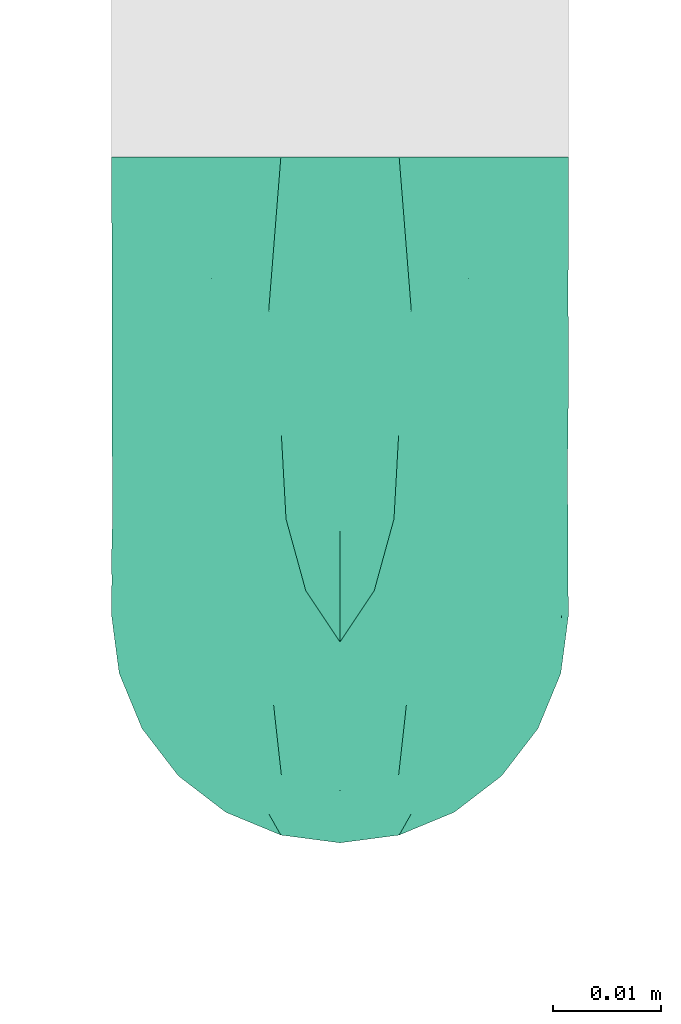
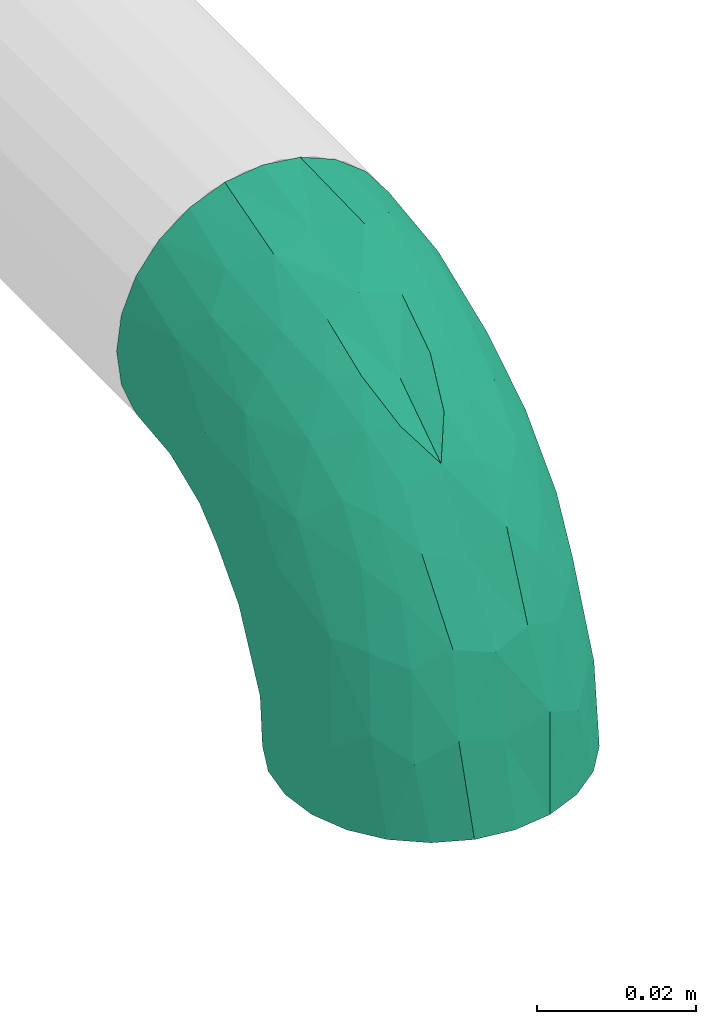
# One storey, part 31 of 32: 1 flow fitting.
"""IFC2X3 building model written with IfcOpenShell, lengths in millimetres."""

import ifcopenshell
import ifcopenshell.guid

model = None  # the IFC model being written
_history = None  # IfcOwnerHistory: only IFC2X3 demands one
_inside = {}  # id of a spatial element -> (the spatial element, [elements in it])
_under = {}  # id of a project, library or spatial element -> (it, [spatial elements below it])
_declared = {}  # id of a project -> (the project, [libraries it declares])
_typed = {}  # id of a type object -> (the type object, [elements of that type])
_made_of = {}  # id of a material, layer set ... -> (it, [elements and type objects made of it])


def new_model(schema):
    """Start an empty IFC model of exactly this schema.

    Asked for "IFC4X3", IfcOpenShell would pick the latest addendum, in which some entities
    have other attributes; the version numbers below select the first issue.
    IFC2X3 requires an IfcOwnerHistory on every rooted entity: one is made here for all.
    """
    global model, _history
    if schema == "IFC4X3":
        model = ifcopenshell.file(schema_version=(4, 3, 0, 0))
    else:
        model = ifcopenshell.file(schema=schema)
    _inside.clear()
    _under.clear()
    _declared.clear()
    _typed.clear()
    _made_of.clear()
    _history = None
    if model.schema == "IFC2X3":
        org = make("IfcOrganization", Name="unknown")
        user = make(
            "IfcPersonAndOrganization",
            ThePerson=make("IfcPerson", FamilyName="unknown"),
            TheOrganization=org,
        )
        app = make(
            "IfcApplication",
            ApplicationDeveloper=org,
            Version="unknown",
            ApplicationFullName="unknown",
            ApplicationIdentifier="unknown",
        )
        _history = make(
            "IfcOwnerHistory",
            OwningUser=user,
            OwningApplication=app,
            ChangeAction="ADDED",
            CreationDate=0,
        )
    return model


def make(cls, **values):
    """One entity of the class cls with the attributes given. An attribute that is None is left unset."""
    return model.create_entity(
        cls, **{name: value for name, value in values.items() if value is not None}
    )


def entity(cls, *values):
    """Any entity or typed value of the class cls, its attributes in the order of the schema. None: left unset."""
    e = model.create_entity(cls)
    for i, value in enumerate(values):
        if value is not None:
            e[i] = value
    return e


def rooted(cls, **values):
    """An entity with a GlobalId (a new one), such as an element, a storey or a relation."""
    return make(cls, GlobalId=ifcopenshell.guid.new(), OwnerHistory=_history, **values)


def si_unit(unit_type, name, prefix=None):
    """IfcSIUnit, for example si_unit("LENGTHUNIT", "METRE", prefix="MILLI")."""
    return make("IfcSIUnit", UnitType=unit_type, Prefix=prefix, Name=name)


def converted_unit(unit_type, name, factor, base, dimensions=None, offset=None):
    """IfcConversionBasedUnit, such as the inch: factor (a typed value) times the base unit."""
    return make(
        "IfcConversionBasedUnit"
        if offset is None
        else "IfcConversionBasedUnitWithOffset",
        ConversionOffset=offset,
        Dimensions=None
        if dimensions is None
        else entity("IfcDimensionalExponents", *dimensions),
        UnitType=unit_type,
        Name=name,
        ConversionFactor=make(
            "IfcMeasureWithUnit", ValueComponent=factor, UnitComponent=base
        ),
    )


def derived_unit(unit_type, elements):
    """IfcDerivedUnit: a product of units, each with its exponent."""
    return make(
        "IfcDerivedUnit",
        Elements=[
            make("IfcDerivedUnitElement", Unit=unit, Exponent=power)
            for unit, power in elements
        ],
        UnitType=unit_type,
    )


def assignment(units):
    """IfcUnitAssignment: the units of a project."""
    return None if units is None else make("IfcUnitAssignment", Units=units)


def point(xyz):
    """IfcCartesianPoint."""
    return None if xyz is None else make("IfcCartesianPoint", Coordinates=xyz)


def direction(xyz):
    """IfcDirection."""
    return None if xyz is None else make("IfcDirection", DirectionRatios=xyz)


def frame(location, z_axis=None, x_axis=None):
    """IfcAxis2Placement3D, a coordinate frame: its origin and axes. An axis left out is left unset."""
    return make(
        "IfcAxis2Placement3D",
        Location=point(location),
        Axis=direction(z_axis),
        RefDirection=direction(x_axis),
    )


def origin_with_axes():
    """The frame at (0, 0, 0) with the z axis (0, 0, 1) and the x axis (1, 0, 0) written out."""
    return frame((0.0, 0.0, 0.0), z_axis=(0.0, 0.0, 1.0), x_axis=(1.0, 0.0, 0.0))


def place(relative_to, where):
    """IfcLocalPlacement: puts the frame where relative to a parent placement (None: the world)."""
    return make(
        "IfcLocalPlacement", PlacementRelTo=relative_to, RelativePlacement=where
    )


def context(
    kind, dimensions, precision=None, world=None, true_north=None, identifier=None
):
    """IfcGeometricRepresentationContext, for example the 3D "Model" context."""
    return make(
        "IfcGeometricRepresentationContext",
        ContextIdentifier=identifier,
        ContextType=kind,
        CoordinateSpaceDimension=dimensions,
        Precision=precision,
        WorldCoordinateSystem=world,
        TrueNorth=true_north,
    )


def subcontext(parent, identifier, kind, view, scale=None):
    """IfcGeometricRepresentationSubContext, for example "Body" below "Model"."""
    return make(
        "IfcGeometricRepresentationSubContext",
        ContextIdentifier=identifier,
        ContextType=kind,
        ParentContext=parent,
        TargetScale=scale,
        TargetView=view,
    )


def project(units=None, contexts=None):
    """IfcProject with its units and contexts."""
    return rooted(
        "IfcProject",
        Name="project",
        RepresentationContexts=contexts,
        UnitsInContext=assignment(units),
    )


def spatial(cls, under=None, at=None, **own):
    """A site, building, storey or space (cls), placed at a placement, below another one or the project."""
    s = rooted(cls, ObjectPlacement=at, **own)
    if under is not None:
        _under.setdefault(under.id(), (under, []))[1].append(s)
    return s


def faces_of(points, faces, orient=None, outer=None):
    """IfcFace entities. A face is a list of loops; a loop is a list of indices into points, from 0.

    orient and outer hold one flag for each loop. By default every Orientation is true, the
    first loop of a face is its IfcFaceOuterBound and the others are IfcFaceBound.
    """
    made = []
    for i, loops in enumerate(faces):
        bounds = []
        for j, loop in enumerate(loops):
            is_outer = j == 0 if outer is None else outer[i][j]
            bounds.append(
                make(
                    "IfcFaceOuterBound" if is_outer else "IfcFaceBound",
                    Bound=make("IfcPolyLoop", Polygon=[points[k] for k in loop]),
                    Orientation=True if orient is None else orient[i][j],
                )
            )
        made.append(make("IfcFace", Bounds=bounds))
    return made


def open_shell(faces, orient=None, outer=None):
    """The faces of one IfcOpenShell. surface_model builds it on its shared points."""
    return ("IfcOpenShell", faces, orient, outer)


def surface_model(cls, points, shells):
    """IfcFaceBasedSurfaceModel or IfcShellBasedSurfaceModel (cls): surfaces that need not close."""
    shared = [point(p) for p in points]
    made = [make(c, CfsFaces=faces_of(shared, fs, o, b)) for c, fs, o, b in shells]
    if cls == "IfcFaceBasedSurfaceModel":
        return make(cls, FbsmFaces=made)
    return make(cls, SbsmBoundary=made)


def shape(context_of_items, identifier, shape_type, items):
    """IfcShapeRepresentation: the items that make up one representation, for example the "Body"."""
    return make(
        "IfcShapeRepresentation",
        ContextOfItems=context_of_items,
        RepresentationIdentifier=identifier,
        RepresentationType=shape_type,
        Items=items,
    )


def source(mapping_origin, context_of_items, identifier, shape_type, items):
    """IfcRepresentationMap: a shape defined once, which mapped items show again and again."""
    return make(
        "IfcRepresentationMap",
        MappingOrigin=mapping_origin,
        MappedRepresentation=shape(context_of_items, identifier, shape_type, items),
    )


def transform(
    local_origin,
    x_axis=None,
    y_axis=None,
    z_axis=None,
    scale=None,
    scale2=None,
    scale3=None,
    uniform=True,
):
    """IfcCartesianTransformationOperator3D, or its non-uniform kind. x_axis, y_axis, z_axis: its Axis1, 2, 3."""
    if uniform:
        return make(
            "IfcCartesianTransformationOperator3D",
            Axis1=direction(x_axis),
            Axis2=direction(y_axis),
            LocalOrigin=point(local_origin),
            Scale=scale,
            Axis3=direction(z_axis),
        )
    return make(
        "IfcCartesianTransformationOperator3DnonUniform",
        Axis1=direction(x_axis),
        Axis2=direction(y_axis),
        LocalOrigin=point(local_origin),
        Scale=scale,
        Axis3=direction(z_axis),
        Scale2=scale2,
        Scale3=scale3,
    )


def mapped(mapping_source, mapping_target):
    """IfcMappedItem: shows the shape of a source again, moved by a transform."""
    return make(
        "IfcMappedItem", MappingSource=mapping_source, MappingTarget=mapping_target
    )


def made_of(thing, what):
    """Note that an element or type object is made of a material, layer set ...; save() writes the relation."""
    if what is not None:
        _made_of.setdefault(what.id(), (what, []))[1].append(thing)
    return thing


def type_object(cls, material=None, **own):
    """A type object (cls), such as IfcWallType, which elements share."""
    return made_of(rooted(cls, **own), material)


def element(
    cls,
    number,
    at=None,
    inside=None,
    cuts=None,
    type_object=None,
    material=None,
    context=None,
    identifier="Body",
    shape_type=None,
    held_by="IfcProductDefinitionShape",
    body=None,
    shapes=None,
    **own,
):
    """One element of the class cls, such as IfcWall. Its Tag is "e" and its number.

    at: its placement. inside: the storey or other place that contains it. cuts: it is an
    opening in that element (IfcRelVoidsElement). A single representation is given by context,
    identifier, shape_type and body (its items); several are given by shapes. held_by: the class
    of the entity that holds the representations. save() writes the other relations.
    """
    e = rooted(cls, Tag="e%d" % number, ObjectPlacement=at, **own)
    if body is not None:
        shapes = [shape(context, identifier, shape_type, body)]
    if shapes is not None:
        e.Representation = make(held_by, Representations=shapes)
    if inside is not None:
        _inside.setdefault(inside.id(), (inside, []))[1].append(e)
    if cuts is not None:
        rooted(
            "IfcRelVoidsElement", RelatingBuildingElement=cuts, RelatedOpeningElement=e
        )
    if type_object is not None:
        _typed.setdefault(type_object.id(), (type_object, []))[1].append(e)
    return made_of(e, material)


def aggregate(whole, parts):
    """IfcRelAggregates: a whole, such as a stair, and the parts it consists of."""
    return rooted("IfcRelAggregates", RelatingObject=whole, RelatedObjects=parts)


def save(model, path):
    """Write the relations noted so far, then the file.

    IfcRelAggregates (storeys below a building ...), IfcRelContainedInSpatialStructure (elements
    in a storey), IfcRelDefinesByType, IfcRelAssociatesMaterial and IfcRelDeclares: one each for
    every whole, place, type object, material and project.
    """
    for whole, parts in _under.values():
        aggregate(whole, parts)
    for where, things in _inside.values():
        rooted(
            "IfcRelContainedInSpatialStructure",
            RelatedElements=things,
            RelatingStructure=where,
        )
    for kind, things in _typed.values():
        rooted("IfcRelDefinesByType", RelatedObjects=things, RelatingType=kind)
    for what, things in _made_of.values():
        rooted("IfcRelAssociatesMaterial", RelatedObjects=things, RelatingMaterial=what)
    for by, libraries in _declared.values():
        rooted("IfcRelDeclares", RelatingContext=by, RelatedDefinitions=libraries)
    model.write(path)


model = new_model("IFC2X3")

# Units and contexts
model_context = context("Model", 3, precision=0.01, world=frame((0.0, 4.29681676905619e-09, 0.0)), true_north=direction((4.01073788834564e-13, 1.0)))
plan_context = context("Plan", 3, precision=0.01, world=frame((0.0, 4.29681676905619e-09, 0.0)), true_north=direction((4.01073788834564e-13, 1.0)))
body_context = subcontext(model_context, "Body", "Model", "MODEL_VIEW")
ifc_project = project(units=[converted_unit("PLANEANGLEUNIT", "DEGREE", entity("IfcPositiveLengthMeasure", 0.0174532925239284), si_unit("PLANEANGLEUNIT", "RADIAN"), dimensions=[0, 0, 0, 0, 0, 0, 0]), si_unit("AREAUNIT", "SQUARE_METRE"), si_unit("LENGTHUNIT", "METRE", prefix="MILLI"), si_unit("MASSUNIT", "GRAM", prefix="KILO"), si_unit("POWERUNIT", "WATT"), si_unit("PRESSUREUNIT", "PASCAL", prefix="KILO"), si_unit("FORCEUNIT", "NEWTON", prefix="KILO"), si_unit("ELECTRICVOLTAGEUNIT", "VOLT"), si_unit("ELECTRICCURRENTUNIT", "AMPERE"), si_unit("THERMODYNAMICTEMPERATUREUNIT", "DEGREE_CELSIUS"), si_unit("TIMEUNIT", "SECOND"), si_unit("VOLUMEUNIT", "CUBIC_METRE"), derived_unit("LINEARVELOCITYUNIT", [(si_unit("LENGTHUNIT", "METRE"), 1), (si_unit("TIMEUNIT", "SECOND"), -1)]), derived_unit("VOLUMETRICFLOWRATEUNIT", [(si_unit("VOLUMEUNIT", "CUBIC_METRE"), 1), (si_unit("TIMEUNIT", "SECOND"), -1)]), derived_unit("THERMALTRANSMITTANCEUNIT", [(si_unit("POWERUNIT", "WATT"), 1), (si_unit("THERMODYNAMICTEMPERATUREUNIT", "KELVIN"), -1), (si_unit("AREAUNIT", "SQUARE_METRE"), -1)]), derived_unit("SOUNDPRESSUREUNIT", [(si_unit("PRESSUREUNIT", "PASCAL"), 1)])], contexts=[model_context, plan_context])

# Site, building, storey
site_placement = place(None, frame((0.0, -4.29681676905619e-09, 0.0), z_axis=(0.0, 0.0, 1.0), x_axis=(1.0, 0.0, 0.0)))
site = spatial("IfcSite", under=ifc_project, at=site_placement, CompositionType="ELEMENT")
building_placement = place(site_placement, frame((0.0, 4.29681676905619e-09, 0.0), z_axis=(0.0, 0.0, 1.0), x_axis=(1.0, 0.0, 0.0)))
building = spatial("IfcBuilding", under=site, at=building_placement, Name="mc-building", CompositionType="ELEMENT")
storey_placement = place(building_placement, frame((0.0, 0.0, 205200.0), z_axis=(0.0, 0.0, 1.0), x_axis=(1.0, 0.0, 0.0)))
storey = spatial("IfcBuildingStorey", under=building, at=storey_placement, Name="Nivå D + 1,2 m", CompositionType="ELEMENT", Elevation=205200.0)

# Flow fitting
pipe_fitting_type = type_object("IfcPipeFittingType", Name="magi_pipe_fe_elbow_short_001", PredefinedType="BEND")
shared_shape = source(origin_with_axes(), body_context, "Body", "SurfaceModel", [
    surface_model("IfcShellBasedSurfaceModel", [(-42.4, 10.6, -18.35974), (-42.4, 5.48696, -20.47763), (-42.4, 0.0, -21.2), (-42.4, 14.99066, -14.99066), (-42.4, 20.47763, -5.48696), (-42.4, 18.35974, -10.6), (-42.4, -14.99066, 14.99066), (-42.4, -21.2, 0.0), (-42.4, -10.6, -18.35974), (-42.4, -14.99066, -14.99066), (-42.4, -5.48696, -20.47763), (-42.4, -18.35974, -10.6), (-42.4, -20.47763, -5.48696), (-42.4, 10.6, 18.35974), (-42.4, 20.47763, 5.48696), (-42.4, 18.35974, 10.6), (-42.4, 14.99066, 14.99066), (-42.4, 5.48696, 20.47763), (-42.4, 0.0, 21.2), (-42.4, -20.47763, 5.48696), (-42.4, -18.35974, 10.6), (-42.4, -10.6, 18.35974), (-42.4, -5.48696, 20.47763), (-42.4, 21.2, 0.0), (0.0, 42.4, -21.2), (-5.48696, 42.4, -20.47763), (-10.6, 42.4, -18.35974), (-14.99066, 42.4, -14.99066), (-18.35974, 42.4, -10.6), (-20.47763, 42.4, -5.48696), (21.2, 42.4, 0.0), (5.48696, 42.4, -20.47763), (14.99066, 42.4, -14.99066), (10.6, 42.4, -18.35974), (18.35974, 42.4, -10.6), (20.47763, 42.4, -5.48696), (14.99066, 42.4, 14.99066), (-20.47763, 42.4, 5.48696), (-10.6, 42.4, 18.35974), (-14.99066, 42.4, 14.99066), (-18.35974, 42.4, 10.6), (-5.48696, 42.4, 20.47763), (0.0, 42.4, 21.2), (18.35974, 42.4, 10.6), (20.47763, 42.4, 5.48696), (5.48696, 42.4, 20.47763), (10.6, 42.4, 18.35974), (-21.2, 42.4, 0.0), (-31.10239, -16.47009, 11.90111), (-27.83957, -12.231, 15.79732), (-30.23067, -18.77937, 0.0), (-18.74048, -13.50096, 10.69998), (-28.17586, -18.50359, 6.61185), (18.50359, 28.17586, 6.61185), (14.95929, 16.60735, 5.43468), (16.35874, 18.06133, 0.0), (-20.72313, 33.83635, 9.21426), (-17.70981, 33.00599, 13.92769), (-31.16033, -8.01664, 19.07348), (-32.38682, -2.80842, 20.83743), (-29.68688, 3.24967, 21.16387), (-7.74467, -9.46536, 0.0), (-16.60735, -14.95929, 5.43468), (-18.06133, -16.35874, 0.0), (-16.37932, -5.14532, 17.61254), (-21.10659, -0.19025, 20.54817), (-1.82445, -3.58377, 9.55223), (-0.35533, 0.43745, 12.66367), (-7.20655, -5.07682, 13.06146), (-33.14056, 17.6728, 13.91288), (-7.36799, 20.84806, 21.16196), (-15.70315, 15.70315, 20.68489), (-12.62356, 9.26422, 21.0908), (-36.67879, 12.83836, 17.27427), (-7.91358, 36.5686, 19.85759), (-2.90555, 31.71221, 21.14793), (-33.84689, 20.71971, 9.21285), (-33.51649, 22.58113, 4.66115), (-26.3226, 26.3226, 7.92474), (-32.67995, 8.31454, 20.02643), (-5.53379, 14.19921, 20.81623), (-10.53385, 3.88918, 19.79653), (-2.16577, 11.45378, 19.48254), (-3.78693, 3.78693, 17.3328), (12.231, 27.83957, 15.79732), (13.50096, 18.74047, 10.69998), (16.47009, 31.10239, 11.90111), (-22.53806, 14.38475, 19.60876), (-23.29615, 9.08095, 20.82061), (2.80842, 32.38682, 20.83743), (8.01664, 31.16033, 19.07348), (5.14532, 16.37932, 17.61254), (18.77937, 30.23067, 0.0), (-20.80278, 5.19491, 21.19095), (-19.62579, 22.38752, 17.42006), (-29.19336, 14.39093, 17.85259), (-22.31569, 34.20044, 4.54807), (-26.56962, 27.80621, 3.73106), (9.67657, 17.17133, 14.49993), (-24.04026, 31.8, 0.0), (-9.16861, 28.72652, 20.19004), (-12.09761, 21.9456, 20.37969), (-15.36991, 27.40112, 17.818), (-16.88976, 20.52477, 19.2896), (-12.95169, 35.54896, 17.36222), (-17.17133, -9.67657, 14.49993), (-21.98655, 28.10245, 11.99898), (-22.34699, 23.67592, 15.01692), (-27.22822, 22.77969, 11.82161), (0.19025, 21.10658, 20.54817), (4.8276, 7.36347, 13.42842), (-10.06209, -9.46364, 9.95114), (1.25876, -2.7536, 5.73797), (6.43781, 3.77591, 7.40371), (6.57528, 2.20066, 3.17705), (10.91934, 8.84313, 5.00748), (10.64415, 10.99764, 8.89767), (-31.8, 24.04026, 0.0), (-5.71381, -8.43063, 6.15529), (2.57199, -2.57199, 0.0), (9.46536, 7.74467, 0.0), (-17.17133, -9.67657, -14.49993), (-27.83957, -12.231, -15.79732), (-16.37932, -5.14532, -17.61254), (-18.74048, -13.50096, -10.69998), (-33.00599, 17.70981, -13.92769), (-35.54896, 12.95169, -17.36222), (-34.20044, 22.31569, -4.54807), (-28.17586, -18.50359, -6.61185), (-26.3226, 26.3226, -7.92474), (-33.83635, 20.72313, -9.21426), (-16.60735, -14.95929, -5.43468), (-20.52477, 16.88976, -19.2896), (-21.9456, 12.0976, -20.37969), (-27.40112, 15.36991, -17.818), (-12.83836, 36.67879, -17.27427), (-17.6728, 33.14056, -13.91288), (8.01664, 31.16033, -19.07348), (5.14532, 16.37932, -17.61254), (0.19025, 21.10658, -20.54817), (-36.5686, 7.91358, -19.85759), (-31.10239, -16.47009, -11.90111), (-31.16033, -8.01664, -19.07348), (-14.38475, 22.53806, -19.60876), (-8.31454, 32.67995, -20.02643), (-9.08095, 23.29615, -20.82061), (-32.38682, -2.80842, -20.83743), (-20.84806, 7.36799, -21.16196), (-15.70315, 15.70314, -20.68489), (-9.26422, 12.62356, -21.0908), (-31.71221, 2.90555, -21.14793), (-22.58113, 33.51649, -4.66115), (-20.71971, 33.84689, -9.21285), (-28.72652, 9.16861, -20.19004), (-27.80621, 26.56962, -3.73106), (-5.19491, 20.80278, -21.19095), (-22.38752, 19.62579, -17.42006), (-14.39093, 29.19336, -17.85259), (2.80842, 32.38682, -20.83743), (-3.24967, 29.68688, -21.16387), (16.47009, 31.10239, -11.90111), (12.231, 27.83957, -15.79732), (6.57528, 2.20067, -3.17705), (10.91934, 8.84313, -5.00749), (-14.19921, 5.53379, -20.81623), (-3.88918, 10.53385, -19.79653), (-11.45378, 2.16577, -19.48254), (1.25876, -2.7536, -5.73797), (-5.71381, -8.43063, -6.15529), (-1.82445, -3.58377, -9.55223), (13.50096, 18.74048, -10.69998), (18.50359, 28.17586, -6.61185), (14.95929, 16.60735, -5.43468), (-28.10245, 21.98655, -11.99898), (9.67657, 17.17133, -14.49993), (10.64415, 10.99764, -8.89767), (4.8276, 7.36347, -13.42842), (-23.67592, 22.34699, -15.01692), (-22.77969, 27.22822, -11.82161), (-21.10658, -0.19025, -20.54817), (-3.78693, 3.78693, -17.3328), (-7.20655, -5.07682, -13.06146), (-10.06209, -9.46364, -9.95113), (-0.35533, 0.43745, -12.66367), (6.43781, 3.77591, -7.40371)], [open_shell([[[0, 1, 2]], [[3, 0, 2]], [[4, 5, 3]], [[2, 4, 3]], [[6, 2, 7]], [[8, 9, 10]], [[11, 10, 9]], [[12, 7, 11]], [[2, 10, 11]], [[11, 7, 2]], [[6, 4, 2]], [[13, 14, 4]], [[15, 14, 16]], [[4, 6, 13]], [[16, 14, 13]], [[17, 13, 18]], [[19, 20, 7]], [[7, 20, 6]], [[21, 22, 6]], [[18, 6, 22]], [[6, 18, 13]], [[23, 4, 14]], [[24, 25, 26]], [[24, 26, 27]], [[27, 28, 29]], [[27, 29, 24]], [[24, 29, 30]], [[31, 32, 33]], [[31, 24, 32]], [[34, 30, 35]], [[32, 24, 34]], [[24, 30, 34]], [[29, 36, 30]], [[29, 37, 38]], [[39, 37, 40]], [[36, 29, 38]], [[38, 37, 39]], [[41, 42, 38]], [[30, 43, 44]], [[36, 43, 30]], [[36, 45, 46]], [[45, 36, 42]], [[38, 42, 36]], [[37, 29, 47]], [[6, 48, 49]], [[19, 7, 50]], [[51, 48, 52]], [[53, 54, 55]], [[48, 6, 20]], [[19, 52, 20]], [[40, 56, 57]], [[49, 21, 6]], [[49, 58, 21]], [[18, 59, 60]], [[61, 62, 63]], [[58, 64, 65]], [[66, 67, 68]], [[15, 16, 69]], [[70, 71, 72]], [[13, 73, 16]], [[22, 59, 18]], [[41, 74, 75]], [[18, 60, 17]], [[15, 69, 76]], [[16, 73, 69]], [[23, 14, 77]], [[14, 15, 76]], [[77, 76, 78]], [[17, 79, 13]], [[80, 81, 82]], [[68, 83, 64]], [[84, 36, 46]], [[85, 86, 84]], [[87, 79, 88]], [[21, 58, 22]], [[42, 89, 45]], [[53, 44, 43]], [[42, 41, 75]], [[84, 90, 91]], [[43, 86, 53]], [[92, 44, 53]], [[86, 43, 36]], [[90, 46, 45]], [[53, 55, 92]], [[88, 93, 72]], [[54, 53, 85]], [[87, 94, 95]], [[78, 96, 97]], [[98, 84, 91]], [[99, 96, 47]], [[79, 17, 60]], [[96, 78, 56]], [[62, 52, 63]], [[57, 39, 40]], [[100, 70, 75]], [[101, 102, 103]], [[19, 50, 52]], [[104, 38, 39]], [[74, 41, 38]], [[57, 102, 104]], [[105, 64, 49]], [[90, 84, 46]], [[40, 37, 56]], [[56, 106, 57]], [[102, 57, 107]], [[95, 107, 69]], [[76, 108, 78]], [[100, 101, 70]], [[89, 75, 109]], [[64, 58, 49]], [[63, 52, 50]], [[59, 58, 65]], [[105, 49, 51]], [[64, 83, 81]], [[89, 90, 45]], [[30, 44, 92]], [[109, 82, 91]], [[109, 91, 90]], [[91, 83, 110]], [[111, 68, 105]], [[66, 68, 111]], [[62, 51, 52]], [[66, 112, 113]], [[114, 115, 113]], [[98, 85, 84]], [[52, 48, 20]], [[49, 48, 51]], [[84, 86, 36]], [[53, 86, 85]], [[88, 79, 60]], [[73, 79, 95]], [[96, 56, 37]], [[78, 108, 106]], [[87, 103, 94]], [[100, 74, 104]], [[108, 69, 107]], [[78, 97, 77]], [[88, 72, 71]], [[109, 75, 70]], [[81, 72, 65]], [[70, 72, 80]], [[75, 89, 42]], [[90, 89, 109]], [[58, 59, 22]], [[60, 59, 65]], [[67, 83, 68]], [[110, 113, 116]], [[88, 60, 93]], [[87, 88, 71]], [[103, 87, 71]], [[79, 87, 95]], [[101, 103, 71]], [[94, 103, 102]], [[47, 96, 37]], [[96, 99, 97]], [[99, 117, 97]], [[97, 117, 77]], [[23, 77, 117]], [[14, 76, 77]], [[60, 65, 93]], [[65, 72, 93]], [[70, 101, 71]], [[102, 101, 100]], [[69, 108, 76]], [[106, 108, 107]], [[57, 106, 107]], [[78, 106, 56]], [[57, 104, 39]], [[100, 104, 102]], [[102, 107, 94]], [[95, 94, 107]], [[64, 81, 65]], [[82, 81, 83]], [[91, 82, 83]], [[80, 82, 109]], [[70, 80, 109]], [[81, 80, 72]], [[79, 73, 13]], [[69, 73, 95]], [[104, 74, 38]], [[75, 74, 100]], [[62, 61, 118]], [[111, 62, 118]], [[113, 115, 116]], [[119, 118, 61]], [[111, 105, 51]], [[113, 112, 114]], [[120, 55, 54]], [[68, 64, 105]], [[91, 110, 98]], [[116, 98, 110]], [[62, 111, 51]], [[66, 111, 118]], [[112, 66, 118]], [[67, 113, 110]], [[118, 119, 112]], [[114, 112, 119]], [[119, 120, 114]], [[115, 120, 54]], [[120, 115, 114]], [[116, 54, 85]], [[54, 116, 115]], [[116, 85, 98]], [[113, 67, 66]], [[83, 67, 110]], [[121, 122, 123]], [[122, 121, 124]], [[5, 125, 3]], [[3, 126, 0]], [[117, 127, 23]], [[50, 12, 128]], [[127, 129, 130]], [[128, 131, 63]], [[132, 133, 134]], [[27, 135, 136]], [[137, 138, 139]], [[0, 140, 1]], [[128, 11, 141]], [[142, 8, 10]], [[128, 63, 50]], [[5, 4, 130]], [[11, 9, 141]], [[143, 144, 145]], [[146, 10, 2]], [[147, 148, 149]], [[11, 128, 12]], [[124, 141, 122]], [[150, 2, 1]], [[151, 152, 129]], [[125, 134, 126]], [[153, 147, 150]], [[127, 154, 129]], [[145, 155, 149]], [[47, 29, 151]], [[143, 156, 157]], [[152, 29, 28]], [[24, 158, 159]], [[122, 9, 8]], [[27, 26, 135]], [[144, 26, 25]], [[32, 160, 161]], [[24, 31, 158]], [[120, 162, 163]], [[130, 125, 5]], [[27, 136, 28]], [[1, 140, 150]], [[33, 161, 137]], [[142, 122, 8]], [[24, 159, 25]], [[164, 165, 166]], [[167, 168, 169]], [[34, 160, 32]], [[161, 33, 32]], [[170, 160, 171]], [[131, 128, 124]], [[30, 92, 35]], [[35, 92, 171]], [[172, 171, 55]], [[35, 171, 34]], [[144, 25, 159]], [[130, 173, 125]], [[174, 175, 176]], [[136, 152, 28]], [[33, 137, 31]], [[122, 142, 123]], [[134, 125, 177]], [[157, 177, 136]], [[152, 178, 129]], [[153, 133, 147]], [[146, 150, 179]], [[146, 142, 10]], [[7, 12, 50]], [[179, 166, 123]], [[179, 123, 142]], [[123, 180, 181]], [[138, 137, 161]], [[55, 171, 92]], [[158, 137, 139]], [[174, 161, 170]], [[138, 180, 165]], [[180, 138, 176]], [[124, 121, 182]], [[176, 183, 180]], [[61, 131, 168]], [[169, 168, 182]], [[172, 170, 171]], [[122, 141, 9]], [[128, 141, 124]], [[171, 160, 34]], [[161, 160, 170]], [[145, 144, 159]], [[135, 144, 157]], [[127, 130, 4]], [[129, 178, 173]], [[143, 132, 156]], [[153, 140, 126]], [[178, 136, 177]], [[129, 154, 151]], [[145, 149, 148]], [[179, 150, 147]], [[165, 149, 139]], [[147, 149, 164]], [[150, 146, 2]], [[142, 146, 179]], [[137, 158, 31]], [[159, 158, 139]], [[174, 138, 161]], [[184, 169, 183]], [[145, 159, 155]], [[143, 145, 148]], [[132, 143, 148]], [[144, 143, 157]], [[133, 132, 148]], [[156, 132, 134]], [[23, 127, 4]], [[127, 117, 154]], [[117, 99, 154]], [[154, 99, 151]], [[47, 151, 99]], [[29, 152, 151]], [[159, 139, 155]], [[139, 149, 155]], [[147, 133, 148]], [[134, 133, 153]], [[136, 178, 152]], [[173, 178, 177]], [[125, 173, 177]], [[129, 173, 130]], [[125, 126, 3]], [[153, 126, 134]], [[134, 177, 156]], [[157, 156, 177]], [[138, 165, 139]], [[166, 165, 180]], [[123, 166, 180]], [[164, 166, 179]], [[147, 164, 179]], [[165, 164, 149]], [[144, 135, 26]], [[136, 135, 157]], [[126, 140, 0]], [[150, 140, 153]], [[182, 131, 124]], [[168, 119, 61]], [[119, 167, 162]], [[63, 131, 61]], [[172, 163, 175]], [[172, 55, 120]], [[123, 181, 121]], [[182, 121, 181]], [[175, 174, 170]], [[176, 138, 174]], [[169, 182, 181]], [[131, 182, 168]], [[183, 169, 181]], [[167, 169, 184]], [[162, 167, 184]], [[119, 168, 167]], [[163, 162, 184]], [[120, 119, 162]], [[175, 163, 184]], [[120, 163, 172]], [[176, 175, 184]], [[172, 175, 170]], [[180, 183, 181]], [[184, 183, 176]]])]),
])
flow_fitting_placement = place(storey_placement, frame((326198.125, 465796.90698, 4300.0), z_axis=(-1.0, 0.0, 0.0), x_axis=(0.0, 0.0, 1.0)))
element("IfcFlowFitting", 1, at=flow_fitting_placement, inside=storey, type_object=pipe_fitting_type, Name="magi_pipe_fe_elbow_short_001", context=body_context, shape_type="MappedRepresentation", body=[
    mapped(shared_shape, transform((0.0, 0.0, 0.0), scale=1.0)),
])

save(model, "model.ifc")
